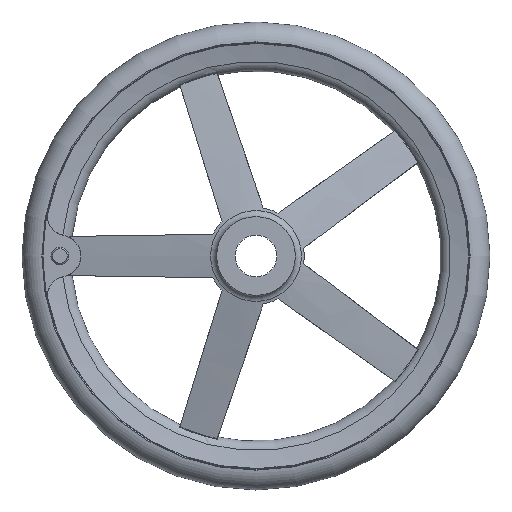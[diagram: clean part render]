
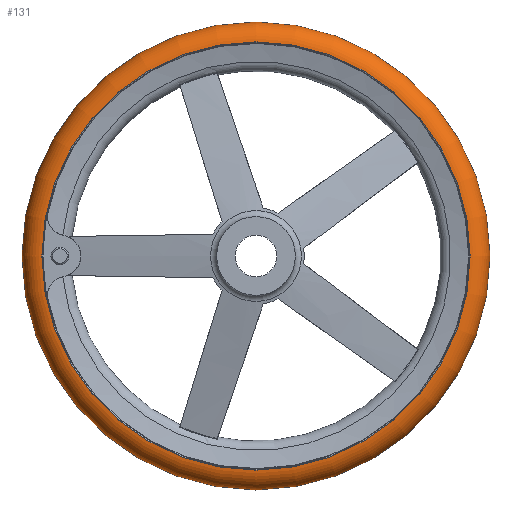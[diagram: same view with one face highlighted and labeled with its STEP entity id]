
A CAD part, left-side view. The second image highlights one B-rep face of the part: STEP entity #131.
In plain terms, the highlighted toroidal (fillet/blend) face has major radius 143.487 mm and minor radius 14.013 mm.
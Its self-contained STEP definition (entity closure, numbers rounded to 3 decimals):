
#131 = ADVANCED_FACE( '', ( #274, #275, #276 ), #277, .T. );
#274 = FACE_BOUND( '', #459, .T. );
#275 = FACE_OUTER_BOUND( '', #460, .T. );
#276 = FACE_OUTER_BOUND( '', #461, .T. );
#277 = TOROIDAL_SURFACE( '', #462, 143.487, 14.013 );
#459 = VERTEX_LOOP( '', #931 );
#460 = EDGE_LOOP( '', ( #932 ) );
#461 = EDGE_LOOP( '', ( #933 ) );
#462 = AXIS2_PLACEMENT_3D( '', #934, #935, #936 );
#931 = VERTEX_POINT( '', #1113 );
#932 = ORIENTED_EDGE( '', *, *, #1114, .T. );
#933 = ORIENTED_EDGE( '', *, *, #1043, .F. );
#934 = CARTESIAN_POINT( '', ( 42., 0., 0. ) );
#935 = DIRECTION( '', ( 1., 0., 0. ) );
#936 = DIRECTION( '', ( 0., 1., 0. ) );
#1043 = EDGE_CURVE( '', #1269, #1269, #1270, .T. );
#1113 = CARTESIAN_POINT( '', ( 42., 157.5, 0. ) );
#1114 = EDGE_CURVE( '', #1374, #1374, #1375, .T. );
#1269 = VERTEX_POINT( '', #2008 );
#1270 = CIRCLE( '', #2009, 144.083 );
#1374 = VERTEX_POINT( '', #2343 );
#1375 = CIRCLE( '', #2344, 144.083 );
#2008 = CARTESIAN_POINT( '', ( 56., 144.083, 0. ) );
#2009 = AXIS2_PLACEMENT_3D( '', #2427, #2428, #2429 );
#2343 = CARTESIAN_POINT( '', ( 28., 144.083, 0. ) );
#2344 = AXIS2_PLACEMENT_3D( '', #2556, #2557, #2558 );
#2427 = CARTESIAN_POINT( '', ( 56., 0., 0. ) );
#2428 = DIRECTION( '', ( 1., 0., 0. ) );
#2429 = DIRECTION( '', ( 0., 1., 0. ) );
#2556 = CARTESIAN_POINT( '', ( 28., 0., 0. ) );
#2557 = DIRECTION( '', ( 1., 0., 0. ) );
#2558 = DIRECTION( '', ( 0., 1., 0. ) );
